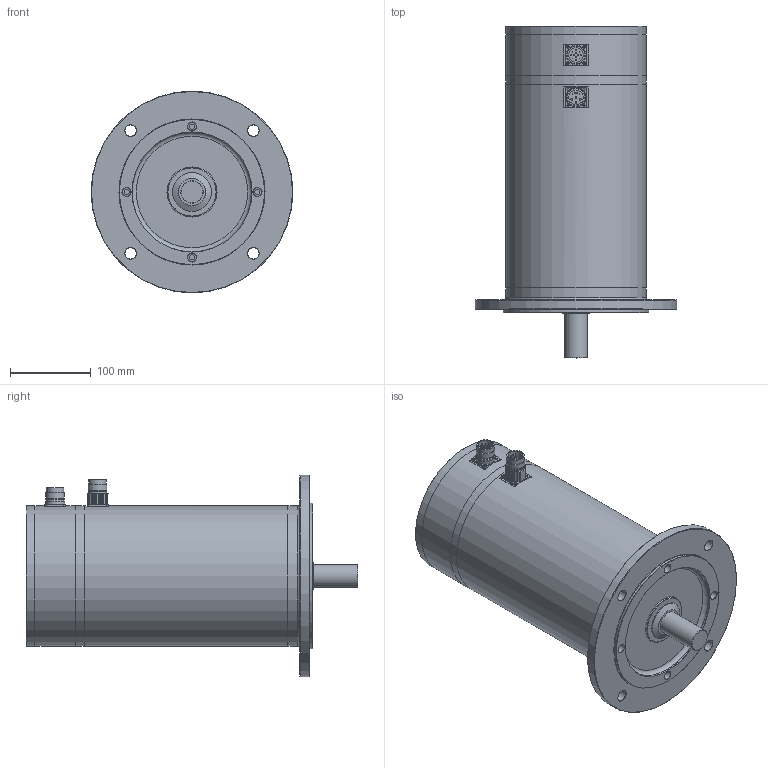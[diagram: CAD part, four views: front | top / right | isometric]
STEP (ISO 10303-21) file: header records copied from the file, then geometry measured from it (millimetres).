
FILE_DESCRIPTION(/* description */ (''),/* implementation_level */ '2;1');
FILE_NAME(/* name */ 'ksa_8x12e_ixx',/* time_stamp */ '2007-03-14T10:18:49+01:00',/* author */ (''),/* organization */ (''),/* preprocessor_version */ 'ST-DEVELOPER v8',/* originating_system */ 'UNIGRAPHICS SOLUTIONS - UNIGRAPHICS 18.0',/* authorisation */ '');
FILE_SCHEMA (('AUTOMOTIVE_DESIGN { 1 2 10303 214 0 1 1 1 }'));
Length unit declared in the file: millimetre
Products named in the file (11): 014261_0; 064305_0; 089286_0; 118030_0; 014260_0; 06331401_0; DIN3760_org_A30x42x7_0; Rotor_SA 84.. E_0; Gehaeuse SA 84.. E_0; 118025_0; KSA8412_E-I27_0
Assembly tree (10 placements, depth 2):
  KSA8412_E-I27_0
    118025_0
    Gehaeuse SA 84.. E_0
    Rotor_SA 84.. E_0
    DIN3760_org_A30x42x7_0
    06331401_0
    014260_0
    118030_0
    089286_0
    064305_0
    014261_0
Bounding box: 250 x 411 x 250 mm (x, y, z)
Volume: 3148035.9 mm3; surface area: 605300.3 mm2
Topology: 10 solids, 10 shells, 291 faces, 717 edges, 455 vertices
Faces by surface type: cylinder 143, plane 77, cone 33, sphere 20, torus 18
Full cylindrical faces by diameter (mm): 1 x16, 2 x4, 2.7 x8, 6.4 x4, 11 x4, 14 x4, 18 x2, 20 x4, 21 x2, 21.5 x2, 23 x4, 24 x1, 27.52 x1, 27.9 x1, 28 x1, 30 x2, 30.3 x1, 38 x1, 39 x1, 42 x2, 48 x1, 56 x1, 60 x1, 62 x1, 140 x1, 148 x1, 150 x1, 151 x2, 174 x5, 180 x1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
Entity records: 7586 total; most frequent: DIRECTION 1418, CARTESIAN_POINT 1214, ORIENTED_EDGE 932, AXIS2_PLACEMENT_3D 652, EDGE_LOOP 522, EDGE_CURVE 466, VERTEX_POINT 380, CIRCLE 350
